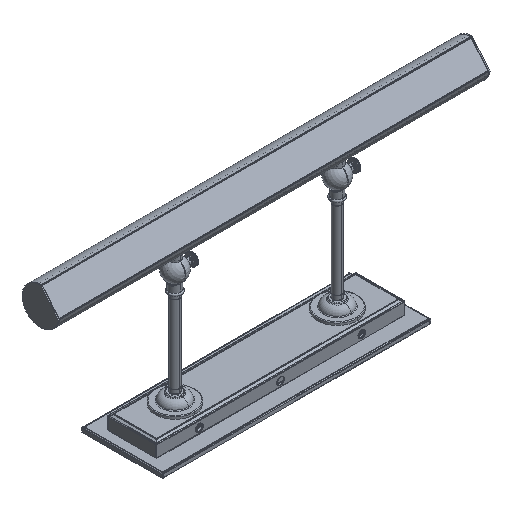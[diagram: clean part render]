
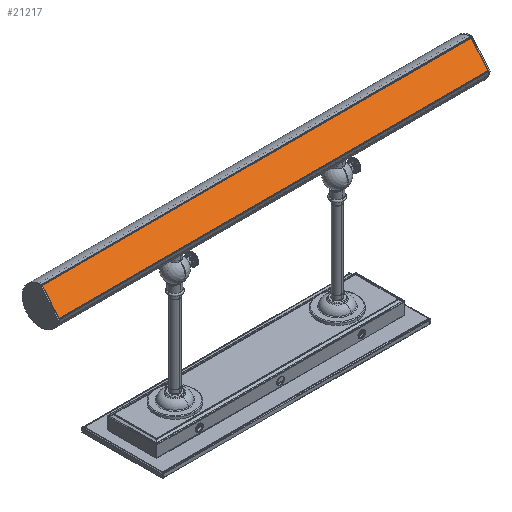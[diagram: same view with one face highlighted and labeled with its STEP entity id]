
A CAD part, isometric view. The second image highlights one B-rep face of the part: STEP entity #21217.
In plain terms, the highlighted planar face has unit normal (0, -0.766, 0.643) as drawn and (0, 1, 0) by its records, which use the part's own axes.
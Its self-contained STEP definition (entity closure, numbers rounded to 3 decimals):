
#21090=DIRECTION('',(0.,0.,1.));
#21091=VECTOR('',#21090,37.);
#21092=CARTESIAN_POINT('',(-303.5,3.,-18.5));
#21093=LINE('',#21092,#21091);
#21097=DIRECTION('',(-1.,0.,0.));
#21098=VECTOR('',#21097,607.);
#21099=CARTESIAN_POINT('',(303.5,3.,-18.5));
#21100=LINE('',#21099,#21098);
#21104=DIRECTION('',(0.,0.,-1.));
#21105=VECTOR('',#21104,37.);
#21106=CARTESIAN_POINT('',(303.5,3.,18.5));
#21107=LINE('',#21106,#21105);
#21111=DIRECTION('',(1.,0.,0.));
#21112=VECTOR('',#21111,607.);
#21113=CARTESIAN_POINT('',(-303.5,3.,18.5));
#21114=LINE('',#21113,#21112);
#21126=CARTESIAN_POINT('',(-303.5,3.,-18.5));
#21127=CARTESIAN_POINT('',(-303.5,3.,18.5));
#21128=VERTEX_POINT('',#21126);
#21129=VERTEX_POINT('',#21127);
#21130=CARTESIAN_POINT('',(303.5,3.,18.5));
#21131=VERTEX_POINT('',#21130);
#21132=CARTESIAN_POINT('',(303.5,3.,-18.5));
#21133=VERTEX_POINT('',#21132);
#21206=CARTESIAN_POINT('',(0.,3.,0.));
#21207=DIRECTION('',(0.,1.,0.));
#21208=DIRECTION('',(1.,0.,0.));
#21209=AXIS2_PLACEMENT_3D('',#21206,#21207,#21208);
#21210=PLANE('',#21209);
#21211=ORIENTED_EDGE('',*,*,#21158,.F.);
#21212=ORIENTED_EDGE('',*,*,#21173,.F.);
#21213=ORIENTED_EDGE('',*,*,#21187,.F.);
#21214=ORIENTED_EDGE('',*,*,#21200,.F.);
#21215=EDGE_LOOP('',(#21211,#21212,#21213,#21214));
#21216=FACE_OUTER_BOUND('',#21215,.F.);
#21158=EDGE_CURVE('',#21128,#21129,#21093,.T.);
#21173=EDGE_CURVE('',#21133,#21128,#21100,.T.);
#21187=EDGE_CURVE('',#21131,#21133,#21107,.T.);
#21200=EDGE_CURVE('',#21129,#21131,#21114,.T.);
#21217=ADVANCED_FACE('',(#21216),#21210,.T.);
